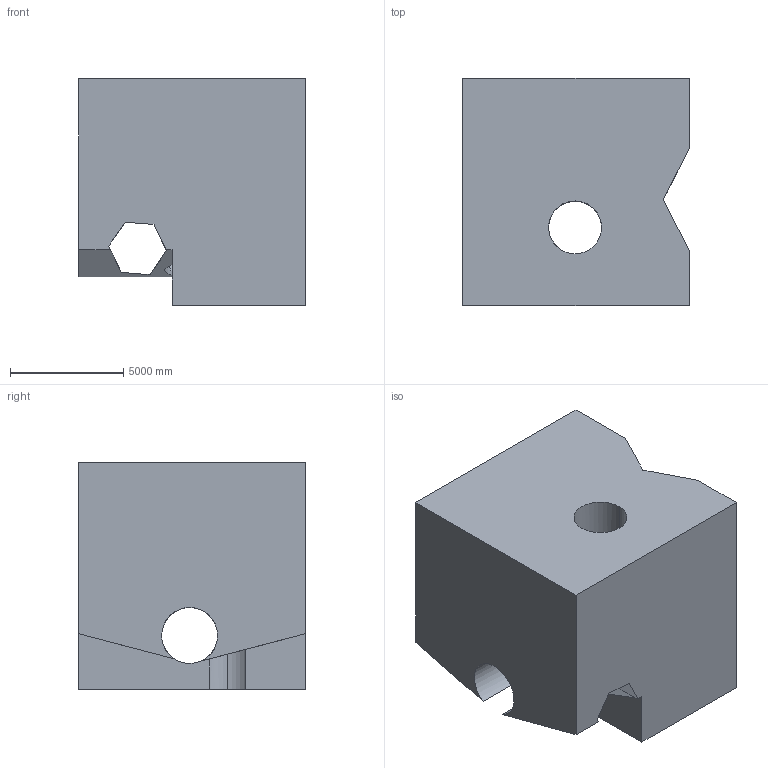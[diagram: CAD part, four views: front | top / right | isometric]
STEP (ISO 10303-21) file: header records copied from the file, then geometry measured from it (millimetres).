
FILE_DESCRIPTION (( 'STEP AP203' ), '1' );
FILE_NAME ('1690.STEP', '2022-08-19T11:45:19', ( 'user' ), ( '' ), 'SwSTEP 2.0', 'SolidWorks 2021', '' );
FILE_SCHEMA (( 'CONFIG_CONTROL_DESIGN' ));
Length unit declared in the file: centimetre
Products named in the file (1): 1690
Bounding box: 10000 x 10000 x 10000 mm (x, y, z)
Volume: 756557242012.1 mm3; surface area: 743293652.9 mm2
Topology: 1 solids, 1 shells, 36 faces, 131 edges, 88 vertices
Faces by surface type: plane 30, cylinder 6
Entity records: 1845 total; most frequent: CARTESIAN_POINT 692, ORIENTED_EDGE 262, DIRECTION 192, EDGE_CURVE 131, VECTOR 92, LINE 92, VERTEX_POINT 88, AXIS2_PLACEMENT_3D 50
